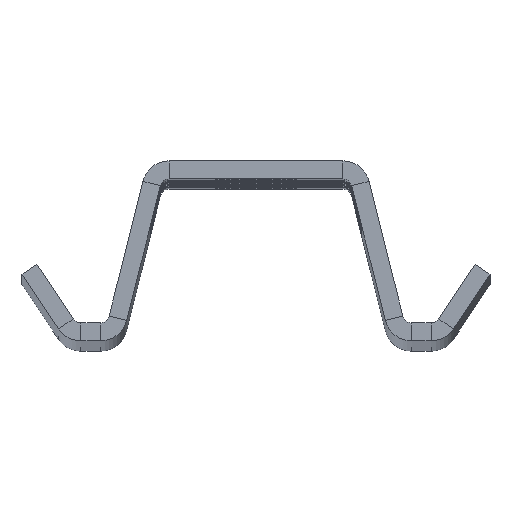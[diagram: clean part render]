
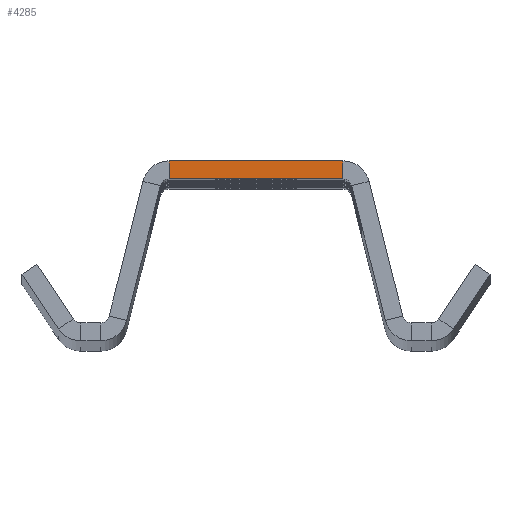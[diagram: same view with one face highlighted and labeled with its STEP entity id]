
A CAD part, top view. The second image highlights one B-rep face of the part: STEP entity #4285.
In plain terms, the highlighted planar face has unit normal (0, 0, 1).
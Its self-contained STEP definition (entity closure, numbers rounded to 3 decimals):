
#157 = VECTOR ( 'NONE', #7712, 1000. ) ;
#492 = DIRECTION ( 'NONE',  ( 0., 0., 1. ) ) ;
#578 = CARTESIAN_POINT ( 'NONE',  ( -9.658, 0., 650. ) ) ;
#1097 = EDGE_LOOP ( 'NONE', ( #2082, #11195, #14884, #16556 ) ) ;
#1654 = DIRECTION ( 'NONE',  ( -1., 0., 0. ) ) ;
#1845 = EDGE_CURVE ( 'NONE', #15449, #9165, #3757, .T. ) ;
#2017 = LINE ( 'NONE', #10273, #13339 ) ;
#2082 = ORIENTED_EDGE ( 'NONE', *, *, #8263, .F. ) ;
#2175 = AXIS2_PLACEMENT_3D ( 'NONE', #578, #492, #3233 ) ;
#2354 = LINE ( 'NONE', #7720, #16635 ) ;
#2711 = EDGE_CURVE ( 'NONE', #9165, #5494, #13621, .T. ) ;
#3233 = DIRECTION ( 'NONE',  ( -1., 0., 0. ) ) ;
#3757 = LINE ( 'NONE', #14212, #157 ) ;
#4285 = ADVANCED_FACE ( 'NONE', ( #13864 ), #5771, .T. ) ;
#5494 = VERTEX_POINT ( 'NONE', #8182 ) ;
#5771 = PLANE ( 'NONE',  #2175 ) ;
#7712 = DIRECTION ( 'NONE',  ( 0., 1., 0. ) ) ;
#7720 = CARTESIAN_POINT ( 'NONE',  ( -9.658, -2., 650. ) ) ;
#8182 = CARTESIAN_POINT ( 'NONE',  ( -9.658, 0., 650. ) ) ;
#8263 = EDGE_CURVE ( 'NONE', #10981, #5494, #2017, .T. ) ;
#9165 = VERTEX_POINT ( 'NONE', #10823 ) ;
#10273 = CARTESIAN_POINT ( 'NONE',  ( -9.658, 0., 650. ) ) ;
#10823 = CARTESIAN_POINT ( 'NONE',  ( 9.658, 0., 650. ) ) ;
#10981 = VERTEX_POINT ( 'NONE', #13136 ) ;
#11195 = ORIENTED_EDGE ( 'NONE', *, *, #13217, .F. ) ;
#11668 = DIRECTION ( 'NONE',  ( -1., 0., 0. ) ) ;
#13136 = CARTESIAN_POINT ( 'NONE',  ( -9.658, -2., 650. ) ) ;
#13217 = EDGE_CURVE ( 'NONE', #15449, #10981, #2354, .T. ) ;
#13339 = VECTOR ( 'NONE', #15553, 1000. ) ;
#13621 = LINE ( 'NONE', #13702, #13918 ) ;
#13702 = CARTESIAN_POINT ( 'NONE',  ( -9.658, 0., 650. ) ) ;
#13864 = FACE_OUTER_BOUND ( 'NONE', #1097, .T. ) ;
#13918 = VECTOR ( 'NONE', #1654, 1000. ) ;
#14212 = CARTESIAN_POINT ( 'NONE',  ( 9.658, 0., 650. ) ) ;
#14884 = ORIENTED_EDGE ( 'NONE', *, *, #1845, .T. ) ;
#15449 = VERTEX_POINT ( 'NONE', #15812 ) ;
#15553 = DIRECTION ( 'NONE',  ( 0., 1., 0. ) ) ;
#15812 = CARTESIAN_POINT ( 'NONE',  ( 9.658, -2., 650. ) ) ;
#16556 = ORIENTED_EDGE ( 'NONE', *, *, #2711, .T. ) ;
#16635 = VECTOR ( 'NONE', #11668, 1000. ) ;
